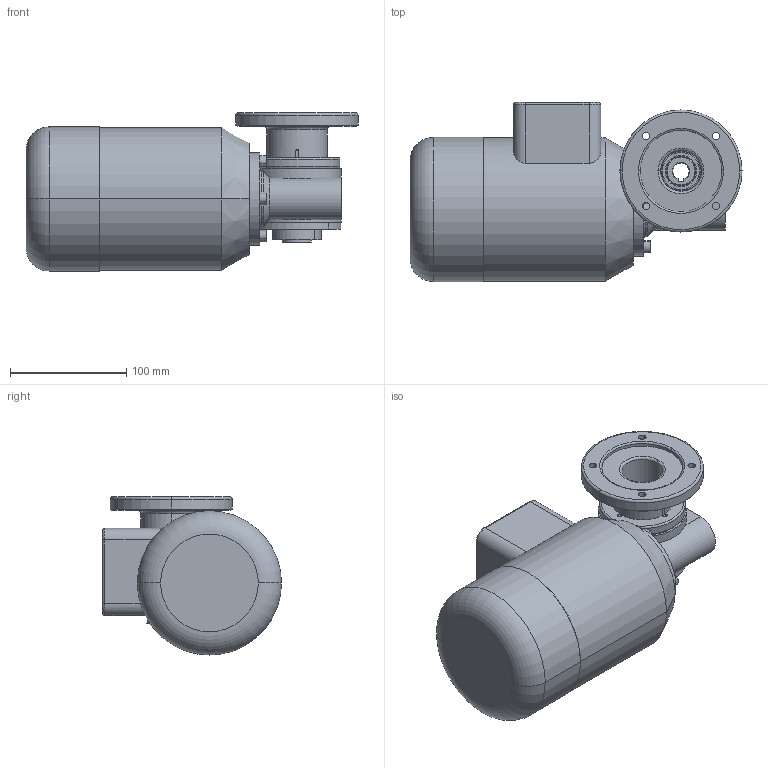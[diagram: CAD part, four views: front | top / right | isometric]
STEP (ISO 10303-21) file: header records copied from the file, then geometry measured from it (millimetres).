
FILE_DESCRIPTION (( 'STEP AP214' ), '1' );
FILE_NAME ('SN3BHFL_120W_180W_250W_A.STEP', '2021-03-16T13:27:52', ( '' ), ( '' ), 'SwSTEP 2.0', 'SolidWorks 2019', '' );
FILE_SCHEMA (( 'AUTOMOTIVE_DESIGN' ));
Length unit declared in the file: millimetre
Products named in the file (3): SN3BHFL_120W_180W_250W_A_o_F_A; 03BH-F-007; SN3BHFL_120W_180W_250W_A
Assembly tree (2 placements, depth 2):
  SN3BHFL_120W_180W_250W_A
    SN3BHFL_120W_180W_250W_A_o_F_A
    03BH-F-007
Bounding box: 285.5 x 154 x 136 mm (x, y, z)
Volume: 132116.1 mm3; surface area: 175059.7 mm2
Topology: 1 solids, 18 shells, 305 faces, 791 edges, 498 vertices
Faces by surface type: cylinder 120, plane 88, cone 64, torus 33
Entity records: 12399 total; most frequent: CARTESIAN_POINT 1912, DIRECTION 1775, ORIENTED_EDGE 1415, EDGE_CURVE 785, AXIS2_PLACEMENT_3D 709, VERTEX_POINT 498, CIRCLE 398, EDGE_LOOP 359
